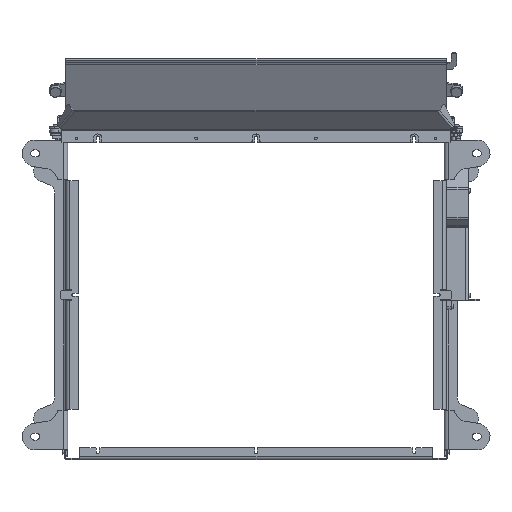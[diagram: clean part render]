
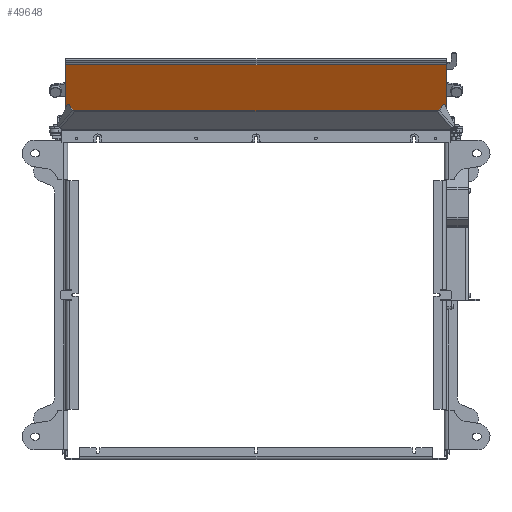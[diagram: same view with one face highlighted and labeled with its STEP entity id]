
A CAD part, front view. The second image highlights one B-rep face of the part: STEP entity #49648.
In plain terms, the highlighted planar face has unit normal (0, -0.882, -0.471).
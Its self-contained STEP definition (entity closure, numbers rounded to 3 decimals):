
#709 = ORIENTED_EDGE ( 'NONE', *, *, #22227, .T. ) ;
#972 = VECTOR ( 'NONE', #21141, 1000. ) ;
#5515 = ORIENTED_EDGE ( 'NONE', *, *, #39618, .T. ) ;
#5531 = PLANE ( 'NONE',  #48292 ) ;
#6642 = VERTEX_POINT ( 'NONE', #37602 ) ;
#10690 = DIRECTION ( 'NONE',  ( 1., 0., 0. ) ) ;
#12443 = CARTESIAN_POINT ( 'NONE',  ( 216.5, 71.941, 91.835 ) ) ;
#13979 = CARTESIAN_POINT ( 'NONE',  ( 0., 92.765, 52.791 ) ) ;
#14564 = DIRECTION ( 'NONE',  ( 0., -0.882, -0.471 ) ) ;
#15566 = LINE ( 'NONE', #12443, #50565 ) ;
#17357 = DIRECTION ( 'NONE',  ( -1., 0., 0. ) ) ;
#18247 = FACE_OUTER_BOUND ( 'NONE', #34412, .T. ) ;
#21141 = DIRECTION ( 'NONE',  ( 0., 0.471, -0.882 ) ) ;
#22227 = EDGE_CURVE ( 'NONE', #38117, #6642, #15566, .T. ) ;
#24827 = VECTOR ( 'NONE', #10690, 1000. ) ;
#30034 = DIRECTION ( 'NONE',  ( 0., -0.471, 0.882 ) ) ;
#30682 = VECTOR ( 'NONE', #17357, 1000. ) ;
#31256 = ORIENTED_EDGE ( 'NONE', *, *, #47538, .T. ) ;
#32774 = LINE ( 'NONE', #39847, #30682 ) ;
#33120 = LINE ( 'NONE', #52805, #972 ) ;
#34412 = EDGE_LOOP ( 'NONE', ( #47931, #5515, #31256, #709 ) ) ;
#35954 = EDGE_CURVE ( 'NONE', #6642, #55618, #32774, .T. ) ;
#37602 = CARTESIAN_POINT ( 'NONE',  ( 216.5, 74.765, 86.541 ) ) ;
#38108 = LINE ( 'NONE', #55318, #24827 ) ;
#38117 = VERTEX_POINT ( 'NONE', #54386 ) ;
#39618 = EDGE_CURVE ( 'NONE', #55618, #42897, #33120, .T. ) ;
#39847 = CARTESIAN_POINT ( 'NONE',  ( 216.5, 74.765, 86.541 ) ) ;
#42897 = VERTEX_POINT ( 'NONE', #45901 ) ;
#45901 = CARTESIAN_POINT ( 'NONE',  ( -216.5, 113.588, 13.747 ) ) ;
#47538 = EDGE_CURVE ( 'NONE', #42897, #38117, #38108, .T. ) ;
#47931 = ORIENTED_EDGE ( 'NONE', *, *, #35954, .T. ) ;
#48292 = AXIS2_PLACEMENT_3D ( 'NONE', #13979, #14564, #54085 ) ;
#49648 = ADVANCED_FACE ( 'NONE', ( #18247 ), #5531, .T. ) ;
#50565 = VECTOR ( 'NONE', #30034, 1000. ) ;
#52805 = CARTESIAN_POINT ( 'NONE',  ( -216.5, 71.941, 91.835 ) ) ;
#54085 = DIRECTION ( 'NONE',  ( -1., 0., 0. ) ) ;
#54386 = CARTESIAN_POINT ( 'NONE',  ( 216.5, 113.588, 13.747 ) ) ;
#55318 = CARTESIAN_POINT ( 'NONE',  ( -216.5, 113.588, 13.747 ) ) ;
#55618 = VERTEX_POINT ( 'NONE', #57006 ) ;
#57006 = CARTESIAN_POINT ( 'NONE',  ( -216.5, 74.765, 86.541 ) ) ;
